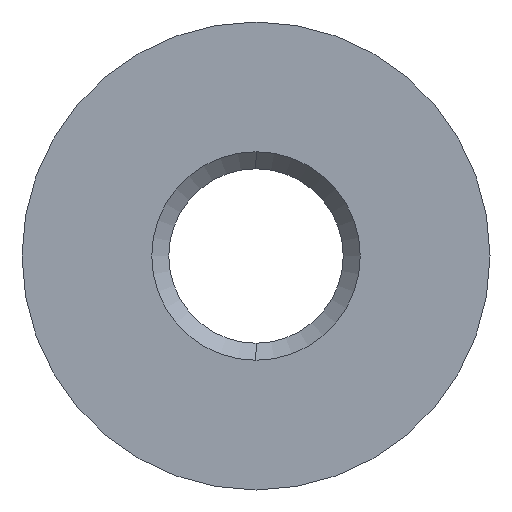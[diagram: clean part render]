
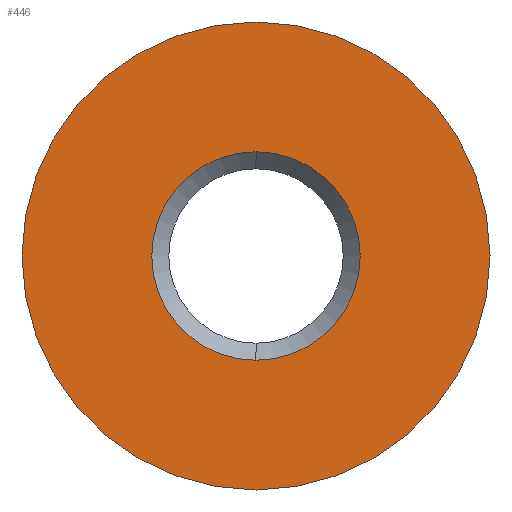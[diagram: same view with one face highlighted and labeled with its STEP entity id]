
A CAD part, left-side view. The second image highlights one B-rep face of the part: STEP entity #446.
In plain terms, the highlighted planar face has unit normal (-1, 0, 0).
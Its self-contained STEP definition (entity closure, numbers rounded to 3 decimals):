
#10 = DIRECTION ( 'NONE',  ( 0., 0., -1. ) ) ;
#11 = CIRCLE ( 'NONE', #87, 2.75 ) ;
#23 = EDGE_CURVE ( 'NONE', #279, #567, #894, .T. ) ;
#76 = DIRECTION ( 'NONE',  ( 1., 0., 0. ) ) ;
#87 = AXIS2_PLACEMENT_3D ( 'NONE', #205, #343, #649 ) ;
#107 = ORIENTED_EDGE ( 'NONE', *, *, #814, .F. ) ;
#147 = CIRCLE ( 'NONE', #572, 2.75 ) ;
#163 = ORIENTED_EDGE ( 'NONE', *, *, #525, .F. ) ;
#205 = CARTESIAN_POINT ( 'NONE',  ( -5.38, 0., 0. ) ) ;
#212 = CARTESIAN_POINT ( 'NONE',  ( -5.38, 0., -2.75 ) ) ;
#218 = AXIS2_PLACEMENT_3D ( 'NONE', #608, #834, #548 ) ;
#241 = EDGE_LOOP ( 'NONE', ( #858, #623 ) ) ;
#279 = VERTEX_POINT ( 'NONE', #542 ) ;
#283 = CARTESIAN_POINT ( 'NONE',  ( -5.38, 0., -1.225 ) ) ;
#289 = DIRECTION ( 'NONE',  ( 1., 0., 0. ) ) ;
#304 = DIRECTION ( 'NONE',  ( 0., 0., 1. ) ) ;
#315 = FACE_BOUND ( 'NONE', #241, .T. ) ;
#343 = DIRECTION ( 'NONE',  ( 1., 0., 0. ) ) ;
#446 = ADVANCED_FACE ( 'NONE', ( #315, #756 ), #742, .T. ) ;
#525 = EDGE_CURVE ( 'NONE', #820, #921, #11, .T. ) ;
#542 = CARTESIAN_POINT ( 'NONE',  ( -5.38, 0., 1.225 ) ) ;
#548 = DIRECTION ( 'NONE',  ( 0., 0., 1. ) ) ;
#553 = AXIS2_PLACEMENT_3D ( 'NONE', #595, #76, #304 ) ;
#567 = VERTEX_POINT ( 'NONE', #283 ) ;
#572 = AXIS2_PLACEMENT_3D ( 'NONE', #877, #671, #10 ) ;
#595 = CARTESIAN_POINT ( 'NONE',  ( -5.38, 0., 0. ) ) ;
#601 = CARTESIAN_POINT ( 'NONE',  ( -5.38, 0., 2.75 ) ) ;
#608 = CARTESIAN_POINT ( 'NONE',  ( -5.38, 2.75, 0. ) ) ;
#611 = AXIS2_PLACEMENT_3D ( 'NONE', #802, #289, #798 ) ;
#623 = ORIENTED_EDGE ( 'NONE', *, *, #708, .T. ) ;
#645 = EDGE_LOOP ( 'NONE', ( #107, #163 ) ) ;
#649 = DIRECTION ( 'NONE',  ( 0., 0., -1. ) ) ;
#671 = DIRECTION ( 'NONE',  ( 1., 0., 0. ) ) ;
#708 = EDGE_CURVE ( 'NONE', #567, #279, #872, .T. ) ;
#742 = PLANE ( 'NONE',  #218 ) ;
#756 = FACE_OUTER_BOUND ( 'NONE', #645, .T. ) ;
#798 = DIRECTION ( 'NONE',  ( 0., 0., 1. ) ) ;
#802 = CARTESIAN_POINT ( 'NONE',  ( -5.38, 0., 0. ) ) ;
#814 = EDGE_CURVE ( 'NONE', #921, #820, #147, .T. ) ;
#820 = VERTEX_POINT ( 'NONE', #601 ) ;
#834 = DIRECTION ( 'NONE',  ( -1., 0., 0. ) ) ;
#858 = ORIENTED_EDGE ( 'NONE', *, *, #23, .T. ) ;
#872 = CIRCLE ( 'NONE', #553, 1.225 ) ;
#877 = CARTESIAN_POINT ( 'NONE',  ( -5.38, 0., 0. ) ) ;
#894 = CIRCLE ( 'NONE', #611, 1.225 ) ;
#921 = VERTEX_POINT ( 'NONE', #212 ) ;
